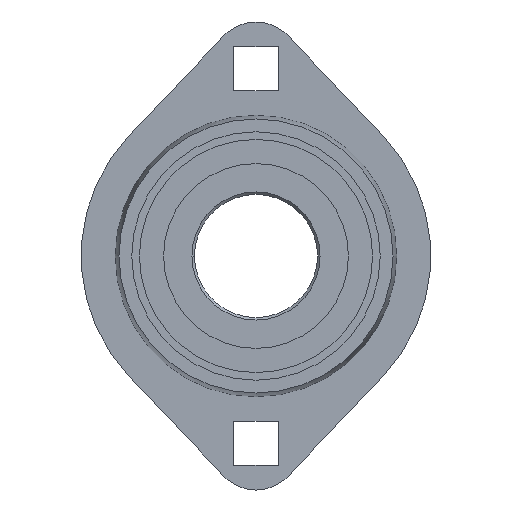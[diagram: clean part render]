
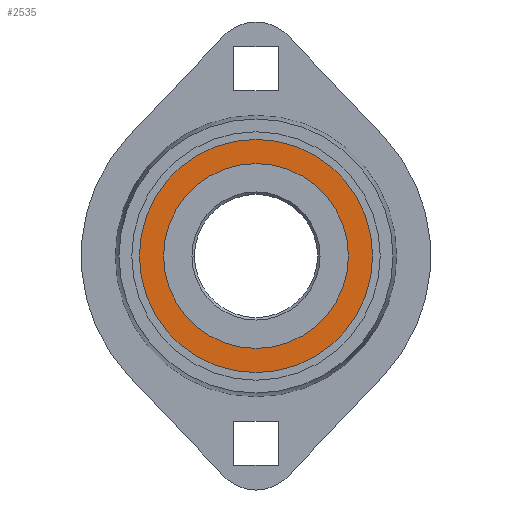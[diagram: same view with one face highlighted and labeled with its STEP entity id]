
A CAD part, left-side view. The second image highlights one B-rep face of the part: STEP entity #2535.
In plain terms, the highlighted planar face has unit normal (-1, 0, 0).
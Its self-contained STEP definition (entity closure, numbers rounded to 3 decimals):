
#27 = CARTESIAN_POINT ( 'NONE',  ( -6.75, 0., 0. ) ) ;
#154 = DIRECTION ( 'NONE',  ( 0., 0., -1. ) ) ;
#491 = ORIENTED_EDGE ( 'NONE', *, *, #2106, .F. ) ;
#528 = VERTEX_POINT ( 'NONE', #806 ) ;
#571 = DIRECTION ( 'NONE',  ( 0., 0., 1. ) ) ;
#595 = PLANE ( 'NONE',  #1507 ) ;
#609 = CARTESIAN_POINT ( 'NONE',  ( -6.75, 0., -18.754 ) ) ;
#741 = ORIENTED_EDGE ( 'NONE', *, *, #1605, .F. ) ;
#804 = AXIS2_PLACEMENT_3D ( 'NONE', #27, #903, #2537 ) ;
#806 = CARTESIAN_POINT ( 'NONE',  ( -6.75, 0., 18.754 ) ) ;
#835 = DIRECTION ( 'NONE',  ( 1., 0., 0. ) ) ;
#839 = CARTESIAN_POINT ( 'NONE',  ( -6.75, 0., 0. ) ) ;
#863 = DIRECTION ( 'NONE',  ( 0., 0., 1. ) ) ;
#903 = DIRECTION ( 'NONE',  ( 1., 0., 0. ) ) ;
#1041 = FACE_BOUND ( 'NONE', #2730, .T. ) ;
#1049 = EDGE_CURVE ( 'NONE', #1327, #1357, #1080, .T. ) ;
#1080 = CIRCLE ( 'NONE', #804, 23.66 ) ;
#1091 = CARTESIAN_POINT ( 'NONE',  ( -6.75, 0., 0. ) ) ;
#1231 = DIRECTION ( 'NONE',  ( 1., 0., 0. ) ) ;
#1327 = VERTEX_POINT ( 'NONE', #2508 ) ;
#1357 = VERTEX_POINT ( 'NONE', #1850 ) ;
#1358 = CIRCLE ( 'NONE', #2346, 18.754 ) ;
#1507 = AXIS2_PLACEMENT_3D ( 'NONE', #2056, #835, #154 ) ;
#1605 = EDGE_CURVE ( 'NONE', #2501, #528, #1915, .T. ) ;
#1641 = FACE_OUTER_BOUND ( 'NONE', #2393, .T. ) ;
#1647 = AXIS2_PLACEMENT_3D ( 'NONE', #1819, #2413, #2213 ) ;
#1819 = CARTESIAN_POINT ( 'NONE',  ( -6.75, 0., 0. ) ) ;
#1850 = CARTESIAN_POINT ( 'NONE',  ( -6.75, 0., 23.66 ) ) ;
#1899 = CIRCLE ( 'NONE', #2286, 23.66 ) ;
#1915 = CIRCLE ( 'NONE', #1647, 18.754 ) ;
#2056 = CARTESIAN_POINT ( 'NONE',  ( -6.75, 0., 0. ) ) ;
#2106 = EDGE_CURVE ( 'NONE', #1357, #1327, #1899, .T. ) ;
#2138 = ORIENTED_EDGE ( 'NONE', *, *, #2575, .F. ) ;
#2213 = DIRECTION ( 'NONE',  ( 0., 0., 1. ) ) ;
#2286 = AXIS2_PLACEMENT_3D ( 'NONE', #839, #1231, #571 ) ;
#2346 = AXIS2_PLACEMENT_3D ( 'NONE', #1091, #2596, #863 ) ;
#2393 = EDGE_LOOP ( 'NONE', ( #491, #2423 ) ) ;
#2413 = DIRECTION ( 'NONE',  ( -1., 0., 0. ) ) ;
#2423 = ORIENTED_EDGE ( 'NONE', *, *, #1049, .F. ) ;
#2501 = VERTEX_POINT ( 'NONE', #609 ) ;
#2508 = CARTESIAN_POINT ( 'NONE',  ( -6.75, 0., -23.66 ) ) ;
#2535 = ADVANCED_FACE ( 'NONE', ( #1041, #1641 ), #595, .F. ) ;
#2537 = DIRECTION ( 'NONE',  ( 0., 0., 1. ) ) ;
#2575 = EDGE_CURVE ( 'NONE', #528, #2501, #1358, .T. ) ;
#2596 = DIRECTION ( 'NONE',  ( -1., 0., 0. ) ) ;
#2730 = EDGE_LOOP ( 'NONE', ( #2138, #741 ) ) ;
